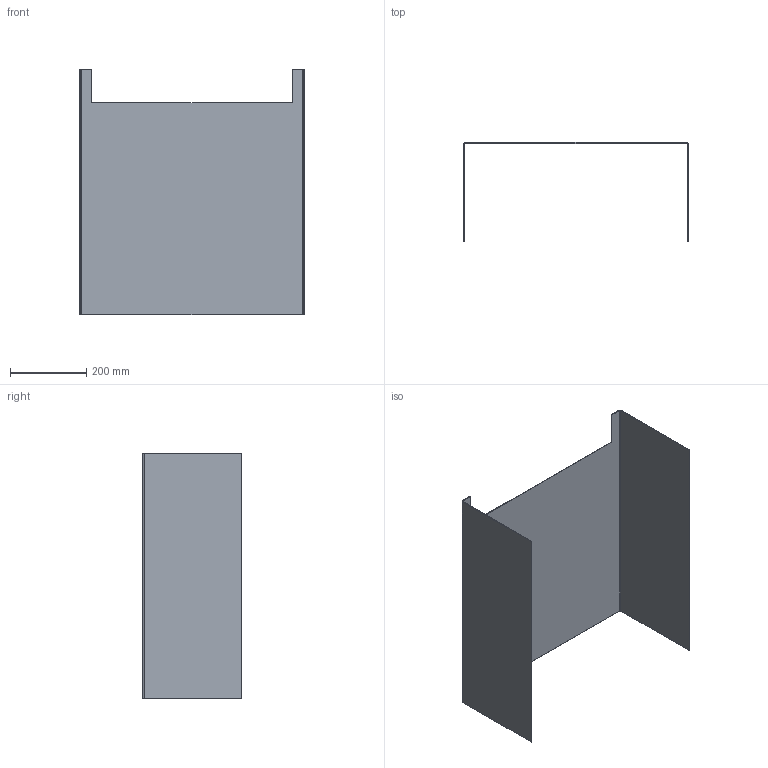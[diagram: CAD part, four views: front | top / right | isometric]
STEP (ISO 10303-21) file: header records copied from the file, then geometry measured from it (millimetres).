
FILE_DESCRIPTION(('Open CASCADE Model'),'2;1');
FILE_NAME('Open CASCADE Shape Model','2026-10-19T10:09:20',('Author'),( 'Open CASCADE'),'Open CASCADE STEP processor 8.0','Open CASCADE 8.0' ,'Unknown');
FILE_SCHEMA(('AUTOMOTIVE_DESIGN { 1 0 10303 214 1 1 1 1 }'));
Length unit declared in the file: millimetre
Products named in the file (1): MG11_GUARDA_U_590x645x260_R3_t2_P05 95
Bounding box: 590 x 260 x 645 mm (x, y, z)
Volume: 1329734.6 mm3; surface area: 1337076.9 mm2
Topology: 1 solids, 1 shells, 18 faces, 48 edges, 32 vertices
Faces by surface type: plane 14, cylinder 4
Entity records: 1194 total; most frequent: CARTESIAN_POINT 195, DIRECTION 190, LINE 128, VECTOR 128, ORIENTED_EDGE 96, PCURVE 96, DEFINITIONAL_REPRESENTATION 96, EDGE_CURVE 48
